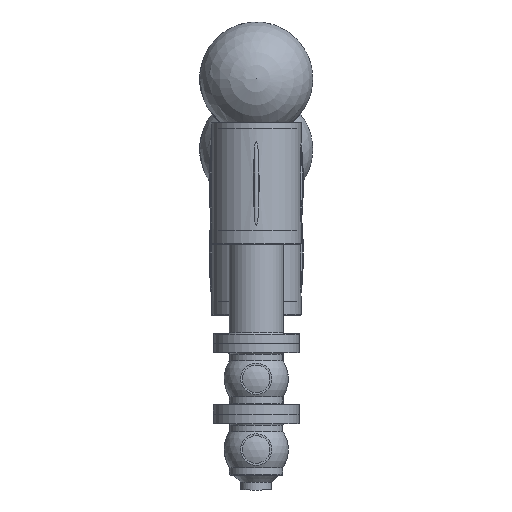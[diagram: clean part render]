
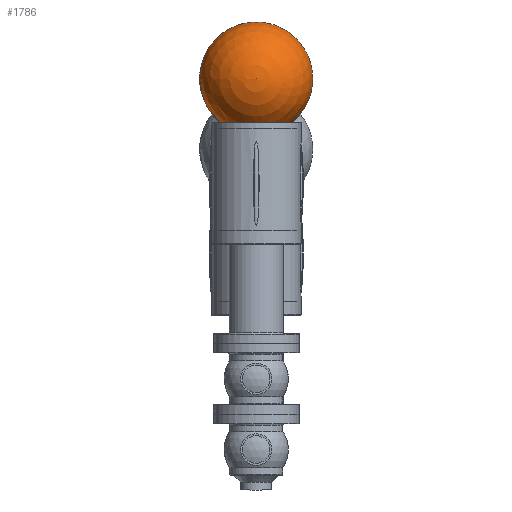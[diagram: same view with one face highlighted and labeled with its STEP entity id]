
A CAD part, front view. The second image highlights one B-rep face of the part: STEP entity #1786.
In plain terms, the highlighted spherical face has radius 72.5 mm.
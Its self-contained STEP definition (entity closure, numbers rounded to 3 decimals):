
#216=SPHERICAL_SURFACE('',#2154,72.5);
#239=FACE_BOUND('',#476,.T.);
#352=FACE_OUTER_BOUND('',#475,.T.);
#475=EDGE_LOOP('',(#1527,#1528));
#476=EDGE_LOOP('',(#1529));
#709=CIRCLE('',#2155,72.5);
#710=CIRCLE('',#2156,46.648);
#895=VERTEX_POINT('',#3603);
#896=VERTEX_POINT('',#3604);
#897=VERTEX_POINT('',#3606);
#1118=EDGE_CURVE('',#895,#896,#709,.T.);
#1119=EDGE_CURVE('',#897,#897,#710,.T.);
#1527=ORIENTED_EDGE('',*,*,#1118,.T.);
#1528=ORIENTED_EDGE('',*,*,#1118,.F.);
#1529=ORIENTED_EDGE('',*,*,#1119,.F.);
#1786=ADVANCED_FACE('',(#352,#239),#216,.T.);
#2154=AXIS2_PLACEMENT_3D('',#3602,#2677,#2678);
#2155=AXIS2_PLACEMENT_3D('',#3605,#2679,#2680);
#2156=AXIS2_PLACEMENT_3D('',#3607,#2681,#2682);
#2677=DIRECTION('center_axis',(0.,0.,1.));
#2678=DIRECTION('ref_axis',(1.,0.,0.));
#2679=DIRECTION('center_axis',(0.,-1.,0.));
#2680=DIRECTION('ref_axis',(-1.,0.,0.));
#2681=DIRECTION('center_axis',(0.,-1.,0.));
#2682=DIRECTION('ref_axis',(1.,0.,0.));
#3602=CARTESIAN_POINT('Origin',(150.,266.5,0.));
#3603=CARTESIAN_POINT('',(150.,266.5,72.5));
#3604=CARTESIAN_POINT('',(150.,266.5,-72.5));
#3605=CARTESIAN_POINT('Origin',(150.,266.5,0.));
#3606=CARTESIAN_POINT('',(196.648,211.,0.));
#3607=CARTESIAN_POINT('Origin',(150.,211.,0.));
